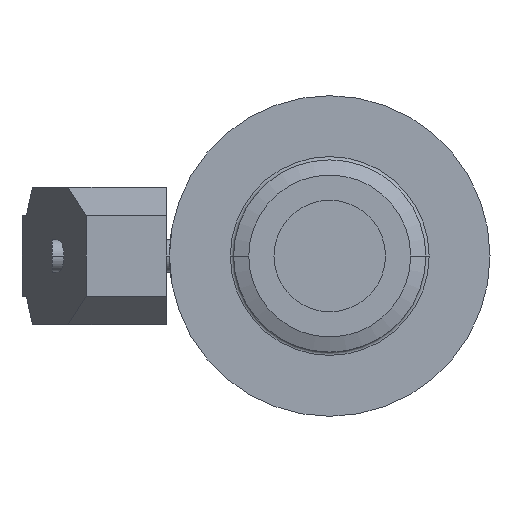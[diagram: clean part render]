
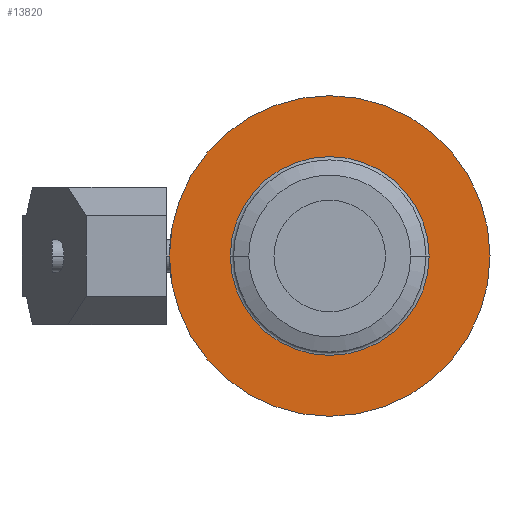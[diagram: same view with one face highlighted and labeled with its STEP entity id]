
A CAD part, left-side view. The second image highlights one B-rep face of the part: STEP entity #13820.
In plain terms, the highlighted planar face has unit normal (-1, 0, 0).
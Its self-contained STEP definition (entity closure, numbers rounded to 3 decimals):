
#13340=CARTESIAN_POINT('',(-123.007,15.75,0.));
#13350=VERTEX_POINT('',#13340);
#13380=CARTESIAN_POINT('',(-123.007,-34.25,0.));
#13390=DIRECTION('',(-1.,0.,0.));
#13400=DIRECTION('',(0.,1.,0.));
#13410=AXIS2_PLACEMENT_3D('',#13380,#13390,#13400);
#13420=CIRCLE('',#13410,50.);
#13430=CARTESIAN_POINT('',(-123.007,-84.25,0.
));
#13440=VERTEX_POINT('',#13430);
#13450=EDGE_CURVE('',#13350,#13440,#13420,.T.);
#13570=CARTESIAN_POINT('',(-123.007,-0.4,0.));
#13580=DIRECTION('',(1.,0.,0.));
#13590=DIRECTION('',(0.,1.,0.));
#13600=AXIS2_PLACEMENT_3D('',#13570,#13580,#13590);
#13610=PLANE('',#13600);
#13620=ORIENTED_EDGE('',*,*,#13450,.T.);
#13630=EDGE_CURVE('',#13440,#13350,#13420,.T.);
#13640=ORIENTED_EDGE('',*,*,#13630,.T.);
#13650=EDGE_LOOP('',(#13640,#13620));
#13660=FACE_OUTER_BOUND('',#13650,.T.);
#13670=CARTESIAN_POINT('',(-123.007,-34.25,0.));
#13680=DIRECTION('',(-1.,0.,0.));
#13690=DIRECTION('',(0.,1.,0.));
#13700=AXIS2_PLACEMENT_3D('',#13670,#13680,#13690);
#13710=CIRCLE('',#13700,31.);
#13720=CARTESIAN_POINT('',(-123.007,-3.25,0.));
#13730=VERTEX_POINT('',#13720);
#13740=CARTESIAN_POINT('',(-123.007,-65.25,0.));
#13750=VERTEX_POINT('',#13740);
#13760=EDGE_CURVE('',#13730,#13750,#13710,.T.);
#13770=ORIENTED_EDGE('',*,*,#13760,.F.);
#13780=EDGE_CURVE('',#13750,#13730,#13710,.T.);
#13790=ORIENTED_EDGE('',*,*,#13780,.F.);
#13800=EDGE_LOOP('',(#13790,#13770));
#13810=FACE_BOUND('',#13800,.T.);
#13820=ADVANCED_FACE('',(#13660,#13810),#13610,.F.);
